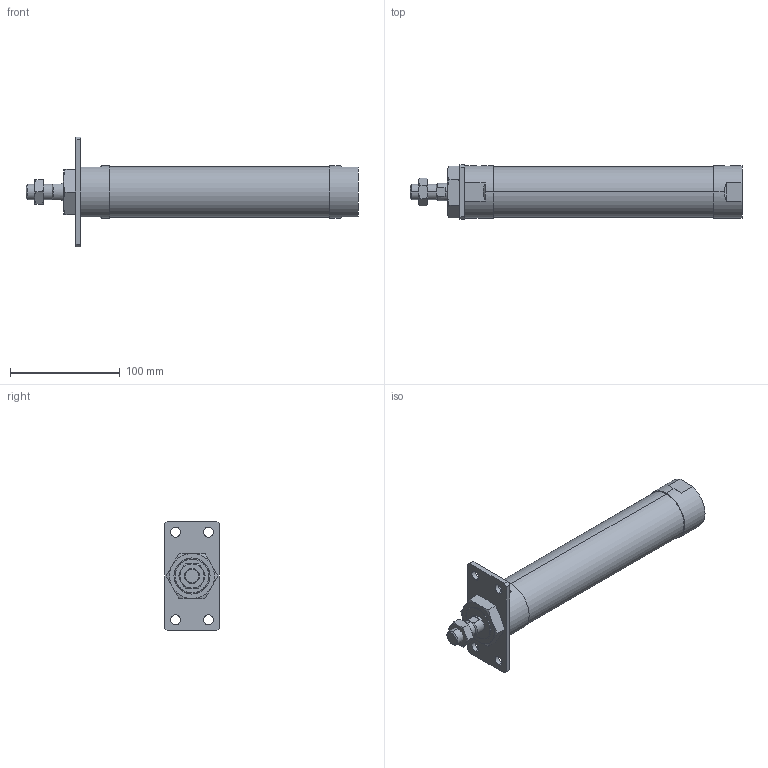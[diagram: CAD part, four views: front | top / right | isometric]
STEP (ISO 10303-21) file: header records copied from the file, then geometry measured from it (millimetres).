
FILE_DESCRIPTION (( 'STEP AP203' ), '1' );
FILE_NAME ('JGND2-40-150-A.STEP', '2016-08-04T03:12:35', ( '' ), ( '' ), 'SwSTEP 2.0', 'SolidWorks 2014', '' );
FILE_SCHEMA (( 'CONFIG_CONTROL_DESIGN' ));
Length unit declared in the file: millimetre
Products named in the file (5): J#2-40-150(P); J#2-40-A; JGND2-40-150-A
Assembly tree (4 placements, depth 2):
  JGND2-40-150-A
    J#2-40-150(P)
    (unnamed)
    (unnamed)
    J#2-40-A
Bounding box: 303 x 50 x 100 mm (x, y, z)
Volume: 470920.4 mm3; surface area: 60571 mm2
Topology: 4 solids, 4 shells, 109 faces, 254 edges, 155 vertices
Faces by surface type: plane 42, cylinder 30, torus 24, cone 13
Entity records: 4068 total; most frequent: CARTESIAN_POINT 1112, DIRECTION 511, ORIENTED_EDGE 500, EDGE_CURVE 250, AXIS2_PLACEMENT_3D 208, VERTEX_POINT 155, EDGE_LOOP 129, FACE_OUTER_BOUND 109
